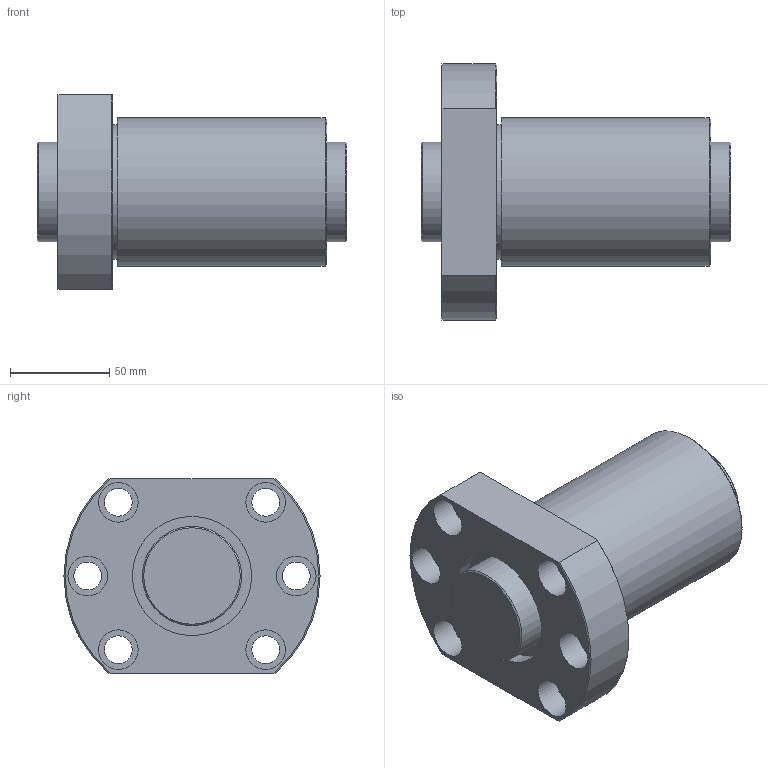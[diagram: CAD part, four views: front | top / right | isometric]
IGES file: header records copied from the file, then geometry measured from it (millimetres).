
Start section: Data from Parasolid IGES Translator 26.0.171, Copyright(c) 2006 Siemens PLM Software. All Rights Reserved.
Global section: file name: DK5020-3RRG1+156LC0_000.igs; native system: By Siemens PLM Incorporated; preprocessor: XPlus GENERIC/IGES 26.0.171; author: Noname; organization: Noname; date: 20250113.093204; units: millimetre
Bounding box: 156 x 129 x 98 mm (x, y, z)
Surface area: 114488.4 mm2 (no closed solid volume)
Topology: 0 solids, 0 shells, 46 faces, 200 edges, 178 vertices
Faces by surface type: revolution 30, extrusion 16
